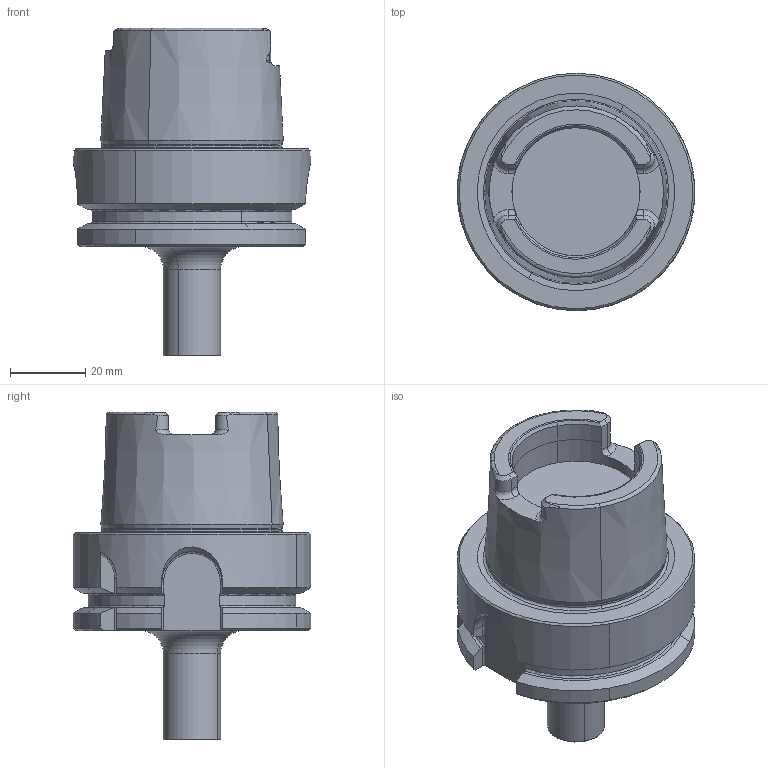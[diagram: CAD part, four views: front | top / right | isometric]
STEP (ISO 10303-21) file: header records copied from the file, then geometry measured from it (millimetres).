
FILE_DESCRIPTION(('CATIA V5 STEP','CAx-IF Rec.Pracs.--- Model Styling and Organization---1.2---2011-12-15'),'2;1');
FILE_NAME('I:\isr\design\admin8\users\raid_s\3106919-L.stp','2014-05-14T11:40:57+00:00',('none'),('none'),'CATIA Version 5 Release 21 SP 5 (IN-10)','CATIA V5 STEP AP214','none');
FILE_SCHEMA(('AUTOMOTIVE_DESIGN { 1 0 10303 214 1 1 1 1 }'));
Length unit declared in the file: millimetre
Products named in the file (1): 620172817_0  MM S-A-H055-HSK A63-T10
Bounding box: 63 x 63 x 87 mm (x, y, z)
Volume: 122650.2 mm3; surface area: 19056.1 mm2
Topology: 1 solids, 1 shells, 159 faces, 412 edges, 258 vertices
Faces by surface type: cylinder 46, plane 45, cone 37, torus 31
Entity records: 5246 total; most frequent: CARTESIAN_POINT 1553, ORIENTED_EDGE 824, DIRECTION 555, EDGE_CURVE 412, AXIS2_PLACEMENT_3D 298, VERTEX_POINT 258, CIRCLE 179, EDGE_LOOP 162
